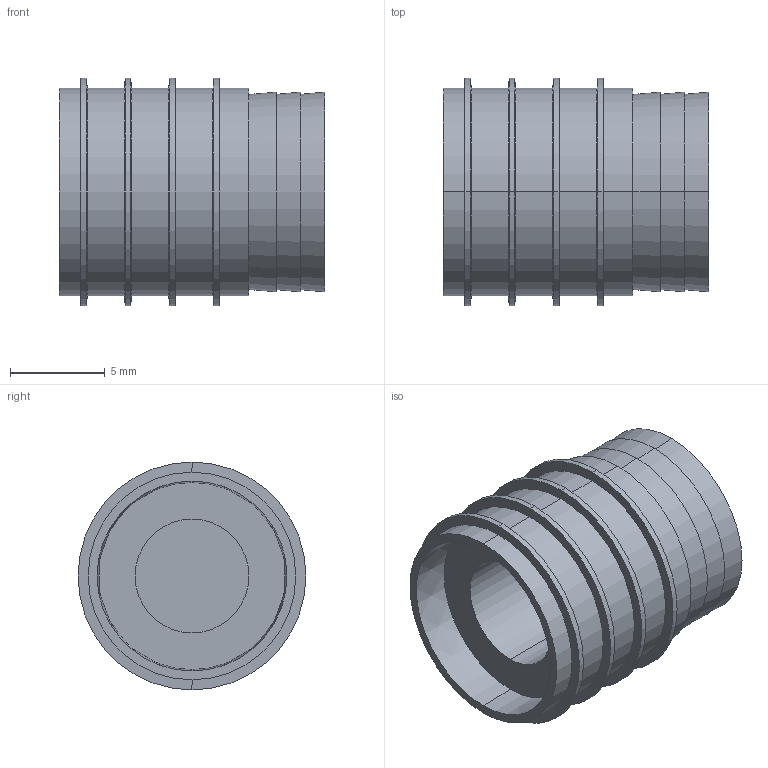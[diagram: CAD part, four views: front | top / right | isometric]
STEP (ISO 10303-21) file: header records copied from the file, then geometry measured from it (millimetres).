
FILE_DESCRIPTION (( 'STEP AP214' ), '1' );
FILE_NAME ('BR942-12.STEP', '2020-06-23T10:11:08', ( '' ), ( '' ), 'SwSTEP 2.0', 'SolidWorks 2018', '' );
FILE_SCHEMA (( 'AUTOMOTIVE_DESIGN' ));
Length unit declared in the file: millimetre
Products named in the file (1): BR942-12
Bounding box: 14 x 12 x 12 mm (x, y, z)
Volume: 1035.1 mm3; surface area: 962.8 mm2
Topology: 1 solids, 1 shells, 51 faces, 100 edges, 56 vertices
Faces by surface type: cone 24, cylinder 20, plane 7
Entity records: 1328 total; most frequent: DIRECTION 260, CARTESIAN_POINT 208, ORIENTED_EDGE 200, AXIS2_PLACEMENT_3D 108, EDGE_CURVE 100, VERTEX_POINT 56, EDGE_LOOP 56, CIRCLE 56
